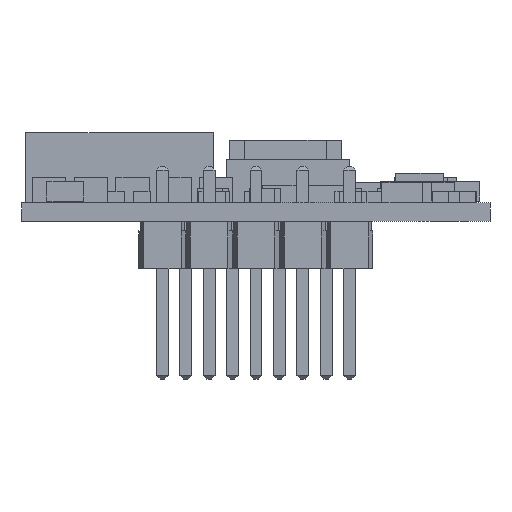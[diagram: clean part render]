
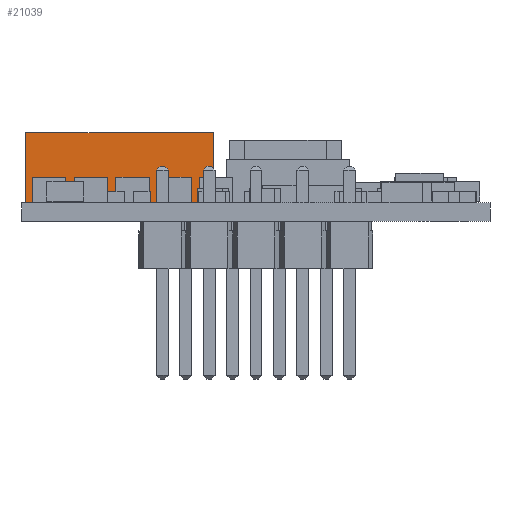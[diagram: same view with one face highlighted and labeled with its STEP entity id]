
A CAD part, left-side view. The second image highlights one B-rep face of the part: STEP entity #21039.
In plain terms, the highlighted planar face has unit normal (-1, 0, 0).
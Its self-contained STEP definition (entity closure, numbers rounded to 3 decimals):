
#21039 = ADVANCED_FACE('',(#21040),#21074,.T.);
#21040 = FACE_BOUND('',#21041,.T.);
#21041 = EDGE_LOOP('',(#21042,#21052,#21060,#21068));
#21042 = ORIENTED_EDGE('',*,*,#21043,.T.);
#21043 = EDGE_CURVE('',#21044,#21046,#21048,.T.);
#21044 = VERTEX_POINT('',#21045);
#21045 = CARTESIAN_POINT('',(-5.25,-5.1,0.));
#21046 = VERTEX_POINT('',#21047);
#21047 = CARTESIAN_POINT('',(-5.25,-5.1,3.8));
#21048 = LINE('',#21049,#21050);
#21049 = CARTESIAN_POINT('',(-5.25,-5.1,0.));
#21050 = VECTOR('',#21051,1.);
#21051 = DIRECTION('',(0.,0.,1.));
#21052 = ORIENTED_EDGE('',*,*,#21053,.T.);
#21053 = EDGE_CURVE('',#21046,#21054,#21056,.T.);
#21054 = VERTEX_POINT('',#21055);
#21055 = CARTESIAN_POINT('',(-5.25,5.1,3.8));
#21056 = LINE('',#21057,#21058);
#21057 = CARTESIAN_POINT('',(-5.25,-5.1,3.8));
#21058 = VECTOR('',#21059,1.);
#21059 = DIRECTION('',(0.,1.,0.));
#21060 = ORIENTED_EDGE('',*,*,#21061,.F.);
#21061 = EDGE_CURVE('',#21062,#21054,#21064,.T.);
#21062 = VERTEX_POINT('',#21063);
#21063 = CARTESIAN_POINT('',(-5.25,5.1,0.));
#21064 = LINE('',#21065,#21066);
#21065 = CARTESIAN_POINT('',(-5.25,5.1,0.));
#21066 = VECTOR('',#21067,1.);
#21067 = DIRECTION('',(0.,0.,1.));
#21068 = ORIENTED_EDGE('',*,*,#21069,.F.);
#21069 = EDGE_CURVE('',#21044,#21062,#21070,.T.);
#21070 = LINE('',#21071,#21072);
#21071 = CARTESIAN_POINT('',(-5.25,-5.1,0.));
#21072 = VECTOR('',#21073,1.);
#21073 = DIRECTION('',(0.,1.,0.));
#21074 = PLANE('',#21075);
#21075 = AXIS2_PLACEMENT_3D('',#21076,#21077,#21078);
#21076 = CARTESIAN_POINT('',(-5.25,-5.1,0.));
#21077 = DIRECTION('',(-1.,0.,0.));
#21078 = DIRECTION('',(0.,1.,0.));
